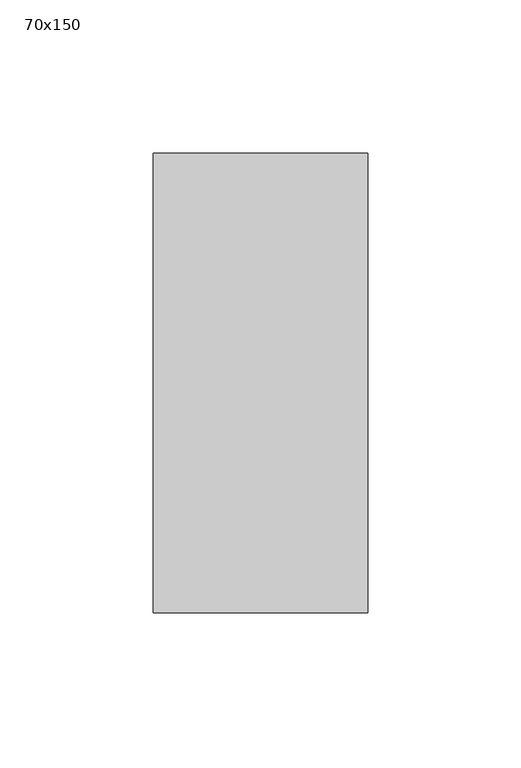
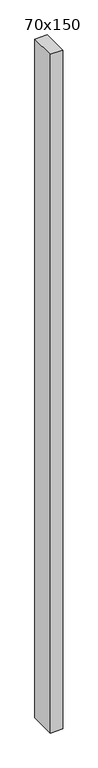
"""IFC4 building model written with IfcOpenShell, lengths in millimetres: member geometry, 長方形のマリオン : 70x150."""

from ifc_helpers import new_model, si_unit, frame, origin, place, context, project, spatial, polyline, outline, extrude, source, transform, mapped, element, save


def member_70x150_90c23e20(model_context):
    return source(origin(), model_context, "Body", "SweptSolid", [
        extrude(outline(polyline([(0.0, 75.0), (0.0, -75.0), (-70.0, -75.0), (-70.0, 75.0), (0.0, 75.0)])), frame((0.0, 0.0, -4000.0), z_axis=(0.0, 0.0, 1.0), x_axis=(1.0, 0.0, 0.0)), (0.0, 0.0, 1.0), 4000.0),
    ])


if __name__ == "__main__":
    model = new_model("IFC4")
    model_context = context("Model", 3, world=origin())
    ifc_project = project(units=[si_unit("LENGTHUNIT", "METRE", prefix="MILLI")], contexts=[model_context])
    site = spatial("IfcSite", under=ifc_project)
    building = spatial("IfcBuilding", under=site)
    placement = place(None, origin())
    member_70x150_shape = member_70x150_90c23e20(model_context)
    element("IfcMember", 1, ObjectType="長方形のマリオン : 70x150", at=placement, inside=building, context=model_context, shape_type="MappedRepresentation", body=[
        mapped(member_70x150_shape, transform((0.0, 0.0, 0.0), x_axis=(1.0, 0.0, 0.0), y_axis=(0.0, 1.0, 0.0), z_axis=(0.0, 0.0, 1.0))),
    ])
    save(model, "model.ifc")
